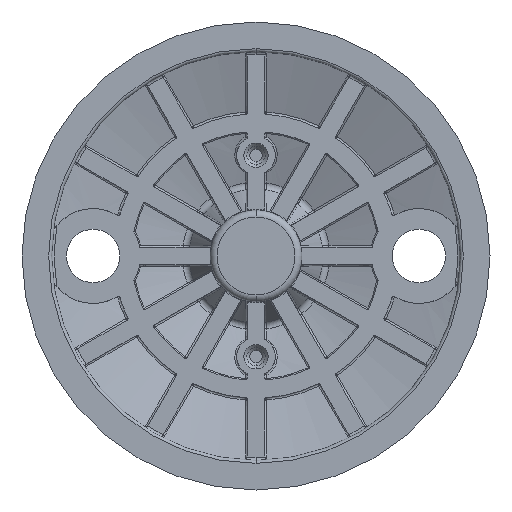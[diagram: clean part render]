
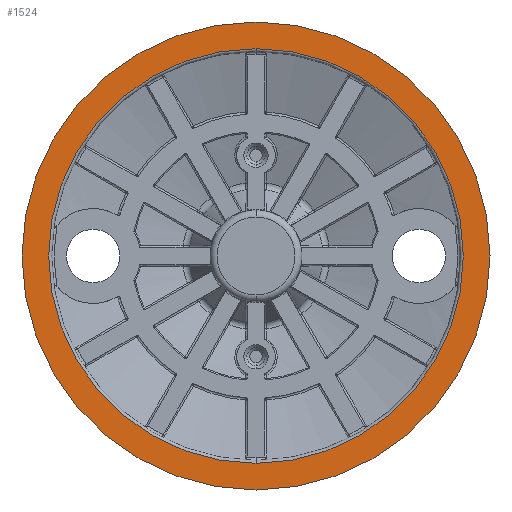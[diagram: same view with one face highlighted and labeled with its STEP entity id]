
A CAD part, front view. The second image highlights one B-rep face of the part: STEP entity #1524.
In plain terms, the highlighted planar face has unit normal (0, -1, 0).
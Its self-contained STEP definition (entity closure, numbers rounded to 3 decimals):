
#1524=ADVANCED_FACE('NONE',(#3070,#3071),#3072,.T.);
#3070=FACE_OUTER_BOUND('',#7060,.T.);
#3071=FACE_BOUND('',#7061,.T.);
#3072=PLANE('',#7062);
#7060=EDGE_LOOP('',(#11328,#11329));
#7061=EDGE_LOOP('',(#11330,#11331));
#7062=AXIS2_PLACEMENT_3D('',#11332,#11333,#11334);
#11328=ORIENTED_EDGE('',*,*,#13133,.F.);
#11329=ORIENTED_EDGE('',*,*,#12948,.F.);
#11330=ORIENTED_EDGE('',*,*,#13334,.T.);
#11331=ORIENTED_EDGE('',*,*,#12701,.T.);
#11332=CARTESIAN_POINT('',(0.0,0.0,0.0));
#11333=DIRECTION('',(0.0,-1.0,0.0));
#11334=DIRECTION('',(0.0,0.0,-1.0));
#12701=EDGE_CURVE('NONE',#15239,#15240,#15241,.T.);
#12948=EDGE_CURVE('NONE',#15544,#15546,#15547,.T.);
#13133=EDGE_CURVE('NONE',#15546,#15544,#15756,.T.);
#13334=EDGE_CURVE('NONE',#15240,#15239,#15969,.T.);
#15239=VERTEX_POINT('NONE',#19925);
#15240=VERTEX_POINT('NONE',#19926);
#15241=CIRCLE('',#19927,35.0);
#15544=VERTEX_POINT('NONE',#20565);
#15546=VERTEX_POINT('NONE',#20568);
#15547=CIRCLE('',#20569,39.5);
#15756=CIRCLE('',#21047,39.5);
#15969=CIRCLE('',#21360,35.0);
#19925=CARTESIAN_POINT('',(39.5,0.,35.0));
#19926=CARTESIAN_POINT('',(39.5,0.,-35.0));
#19927=AXIS2_PLACEMENT_3D('',#22809,#22810,#22811);
#20565=CARTESIAN_POINT('',(39.5,0.0,-39.5));
#20568=CARTESIAN_POINT('',(39.5,0.0,39.5));
#20569=AXIS2_PLACEMENT_3D('',#23070,#23071,#23072);
#21047=AXIS2_PLACEMENT_3D('',#23253,#23254,#23255);
#21360=AXIS2_PLACEMENT_3D('',#23473,#23474,#23475);
#22809=CARTESIAN_POINT('',(39.5,0.0,0.0));
#22810=DIRECTION('',(0.0,1.0,0.0));
#22811=DIRECTION('',(0.0,0.0,-1.0));
#23070=CARTESIAN_POINT('',(39.5,0.0,0.0));
#23071=DIRECTION('',(-0.0,1.0,0.0));
#23072=DIRECTION('',(0.0,0.0,1.0));
#23253=CARTESIAN_POINT('',(39.5,0.0,0.0));
#23254=DIRECTION('',(-0.0,1.0,0.0));
#23255=DIRECTION('',(0.0,0.0,1.0));
#23473=CARTESIAN_POINT('',(39.5,0.0,0.0));
#23474=DIRECTION('',(0.0,1.0,0.0));
#23475=DIRECTION('',(0.0,0.0,-1.0));
